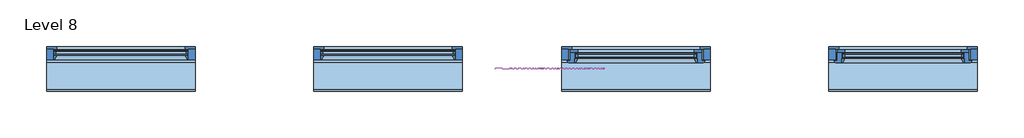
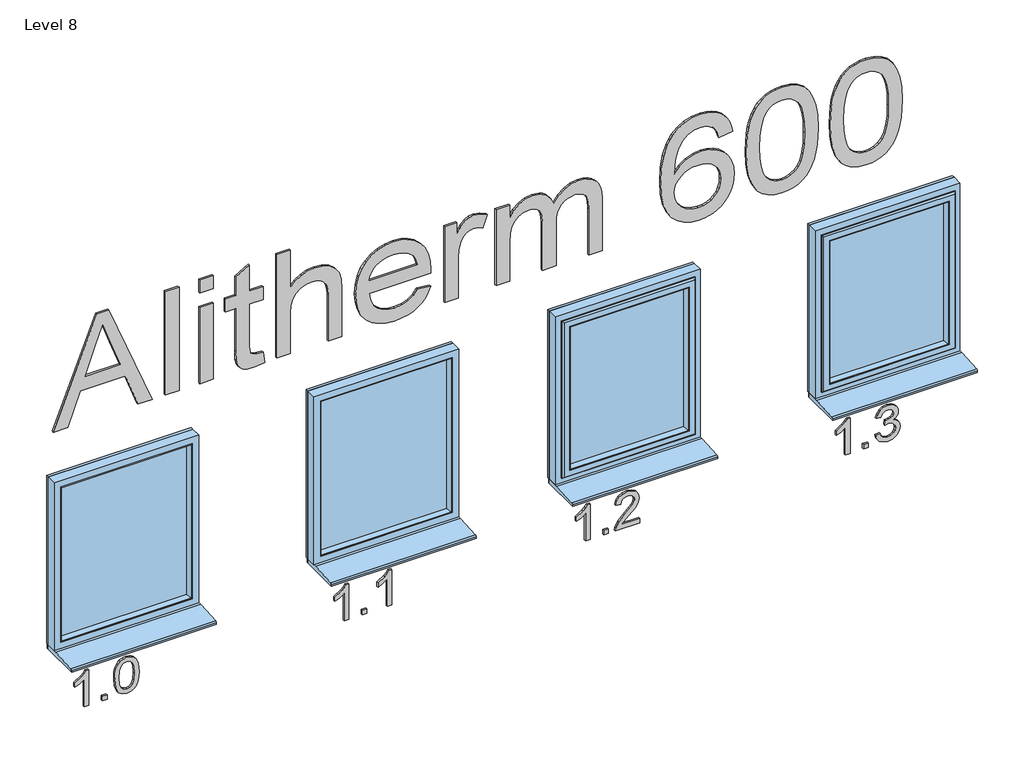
# One storey: 5 proxies, 4 windows.
"""IFC4 building model written with IfcOpenShell, lengths in millimetres."""

from ifc_helpers import new_model, si_unit, frame, origin, place, context, project, spatial, polyline, outline, extrude, transform, mapped, element, save
from components import standard_c212a0ed, standard_17f7015e

model = new_model("IFC4")

# Units and contexts
model_context = context("Model", 3, world=origin())
ifc_project = project(units=[si_unit("LENGTHUNIT", "METRE", prefix="MILLI")], contexts=[model_context])

# Site, building, storey
site = spatial("IfcSite", under=ifc_project)
building = spatial("IfcBuilding", under=site)
storey = spatial("IfcBuildingStorey", under=building, Name="Level 8", Elevation=21000.0)

# Proxies
placement = place(None, origin())
element("IfcBuildingElementProxy", 1, Name="200mm Arial", ObjectType="200mm Arial", at=placement, inside=storey, context=model_context, shape_type="SweptSolid", body=[
    extrude(outline(polyline([(21299.3207785, -163107.777074), (21500.2333988, -163107.777074), (21500.2333988, -163123.9638818), (21487.0754861, -163132.8359693), (21473.5006405, -163146.3065817), (21450.0052437, -163183.1193066), (21426.2645923, -163183.1193066), (21438.9442584, -163156.6808539), (21455.8913556, -163132.8911516), (21299.3207785, -163132.8911516), (21299.3207785, -163107.777074)])), frame((0.0, 24202.6264647, 0.0), z_axis=(0.0, 1.0, 0.0), x_axis=(0.0, 0.0, 1.0)), (0.0, 0.0, 1.0), 10.0),
    extrude(outline(polyline([(-163010.4600236, 24202.6264647), (-163035.5741011, 24202.6264647), (-163035.5741011, 24212.6264647), (-163010.4600236, 24212.6264647), (-163010.4600236, 24202.6264647)])), frame((0.0, 0.0, 21299.3207785), z_axis=(0.0, 0.0, 1.0), x_axis=(1.0, 0.0, 0.0)), (0.0, 0.0, 1.0), 25.1140775),
    extrude(outline(polyline([(21398.1584079, -162969.6496476), (21349.2914162, -162964.6464524), (21330.4405296, -162958.3924585), (21315.3113825, -162949.636867), (21300.9639847, -162929.8202902), (21296.1815188, -162903.725194), (21298.9345024, -162883.4242393), (21307.1934532, -162866.96152), (21321.0503417, -162854.2266716), (21340.5971383, -162845.1093295), (21366.1833311, -162839.6278877), (21398.1584079, -162837.8007405), (21445.3699306, -162842.3624772), (21475.0947958, -162854.1347011), (21485.8553441, -162862.8044534), (21493.7586757, -162874.3927363), (21498.614718, -162888.2496248), (21500.2333988, -162903.725194), (21497.4988093, -162923.9157842), (21489.2950408, -162940.3417153), (21475.4933346, -162953.0949578), (21455.964932, -162962.2674822), (21430.3174256, -162967.8041062), (21398.1584079, -162969.6496476)]), holes=[polyline([(21398.2074588, -162944.53557), (21437.2029503, -162941.4944122), (21461.6793657, -162932.3709387), (21471.7593324, -162919.7403236), (21475.1193212, -162904.0194996), (21471.3056112, -162887.4157589), (21459.8644812, -162874.2946344), (21436.8228055, -162865.7597721), (21398.2074588, -162862.914818), (21358.7643775, -162865.857874), (21335.8882488, -162874.6870419), (21324.9437594, -162887.8326918), (21321.2955963, -162903.725194), (21324.9314967, -162919.6176962), (21335.8391979, -162932.7633462), (21358.7030639, -162941.5925141), (21398.2074588, -162944.53557)])]), frame((0.0, 24202.6264647, 0.0), z_axis=(0.0, 1.0, 0.0), x_axis=(0.0, 0.0, 1.0)), (0.0, 0.0, 1.0), 10.0),
])
element("IfcBuildingElementProxy", 2, Name="200mm Arial", ObjectType="200mm Arial", at=placement, inside=storey, context=model_context, shape_type="SweptSolid", body=[
    extrude(outline(polyline([(21299.3207785, -160407.777074), (21500.2333988, -160407.777074), (21500.2333988, -160423.9638818), (21487.0754861, -160432.8359693), (21473.5006405, -160446.3065817), (21450.0052437, -160483.1193066), (21426.2645923, -160483.1193066), (21438.9442584, -160456.6808539), (21455.8913556, -160432.8911516), (21299.3207785, -160432.8911516), (21299.3207785, -160407.777074)])), frame((0.0, 24202.6264647, 0.0), z_axis=(0.0, 1.0, 0.0), x_axis=(0.0, 0.0, 1.0)), (0.0, 0.0, 1.0), 10.0),
    extrude(outline(polyline([(-160310.4600236, 24202.6264647), (-160335.5741011, 24202.6264647), (-160335.5741011, 24212.6264647), (-160310.4600236, 24212.6264647), (-160310.4600236, 24202.6264647)])), frame((0.0, 0.0, 21299.3207785), z_axis=(0.0, 0.0, 1.0), x_axis=(1.0, 0.0, 0.0)), (0.0, 0.0, 1.0), 25.1140775),
    extrude(outline(polyline([(21324.434856, -160140.9400002), (21324.434856, -160239.5814258), (21337.212624, -160228.2506604), (21361.3702083, -160199.359661), (21395.7794376, -160163.3808019), (21420.4030058, -160148.5428948), (21444.2172337, -160144.0792599), (21466.1184751, -160148.2179323), (21484.1446929, -160160.6339497), (21496.2112223, -160180.1500895), (21500.2333988, -160205.5891295), (21496.6158925, -160230.8442285), (21485.7633736, -160250.3971565), (21468.0191987, -160263.5612006), (21443.7267243, -160269.6496476), (21440.5874646, -160244.53557), (21455.0207016, -160241.8193746), (21465.9467968, -160233.965094), (21472.8261901, -160221.7943314), (21475.1193212, -160206.1286897), (21472.7710078, -160191.2110748), (21465.7260676, -160179.4204569), (21455.2720876, -160171.7501173), (21442.6966547, -160169.1933374), (21428.668088, -160171.9034015), (21414.2471138, -160180.0335936), (21372.4066682, -160223.3946181), (21343.2949396, -160254.8362659), (21316.6357577, -160270.091106), (21299.3207785, -160272.7889073), (21299.3207785, -160140.9400002), (21324.434856, -160140.9400002)])), frame((0.0, 24202.6264647, 0.0), z_axis=(0.0, 1.0, 0.0), x_axis=(0.0, 0.0, 1.0)), (0.0, 0.0, 1.0), 10.0),
])
element("IfcBuildingElementProxy", 3, Name="200mm Arial", ObjectType="200mm Arial", at=placement, inside=storey, context=model_context, shape_type="SweptSolid", body=[
    extrude(outline(polyline([(21299.3207785, -159007.777074), (21500.2333988, -159007.777074), (21500.2333988, -159023.9638818), (21487.0754861, -159032.8359693), (21473.5006405, -159046.3065817), (21450.0052437, -159083.1193066), (21426.2645923, -159083.1193066), (21438.9442584, -159056.6808539), (21455.8913556, -159032.8911516), (21299.3207785, -159032.8911516), (21299.3207785, -159007.777074)])), frame((0.0, 24202.6264647, 0.0), z_axis=(0.0, 1.0, 0.0), x_axis=(0.0, 0.0, 1.0)), (0.0, 0.0, 1.0), 10.0),
    extrude(outline(polyline([(-158910.4600236, 24202.6264647), (-158935.5741011, 24202.6264647), (-158935.5741011, 24212.6264647), (-158910.4600236, 24212.6264647), (-158910.4600236, 24202.6264647)])), frame((0.0, 0.0, 21299.3207785), z_axis=(0.0, 0.0, 1.0), x_axis=(1.0, 0.0, 0.0)), (0.0, 0.0, 1.0), 25.1140775),
    extrude(outline(polyline([(21352.6881933, -158869.6496476), (21329.9898741, -158863.4324419), (21311.9268682, -158849.685918), (21300.1178561, -158829.9183921), (21296.1815188, -158805.6381804), (21300.7923065, -158778.7950575), (21314.6246695, -158757.0287061), (21335.0789084, -158742.6077319), (21359.5553238, -158737.8007405), (21377.5324907, -158740.2042362), (21392.223245, -158747.4147233), (21403.0389757, -158759.0643198), (21409.3910714, -158774.7851438), (21416.6383467, -158762.8167162), (21426.0193376, -158754.183752), (21437.031272, -158748.9598277), (21449.1713779, -158747.2185196), (21462.2005318, -158749.0517982), (21474.5061846, -158754.551634), (21485.1870252, -158763.515692), (21493.3417427, -158775.7416369), (21498.5104848, -158790.2423189), (21500.2333988, -158806.0305879), (21496.7385198, -158827.9563548), (21486.253883, -158845.9580471), (21469.4171503, -158859.1159598), (21446.865984, -158866.5103879), (21443.7267243, -158841.3963103), (21457.4609855, -158836.9449382), (21467.271172, -158829.0845262), (21473.1572839, -158818.3178465), (21475.1193212, -158805.1476711), (21473.175678, -158792.0020211), (21467.3447484, -158781.5051215), (21458.5462374, -158774.6257282), (21447.6998499, -158772.3325971), (21434.6768272, -158775.4963823), (21425.5288283, -158784.9877378), (21420.120963, -158798.439956), (21418.3183412, -158813.4863296), (21418.6126468, -158817.5085061), (21393.4985693, -158820.3044093), (21396.2454215, -158802.6951245), (21393.6763789, -158786.9007241), (21385.9692511, -158774.1474816), (21374.3380487, -158765.7229839), (21359.9967822, -158762.914818), (21344.889095, -158765.7475094), (21332.4301581, -158774.2455835), (21324.0792368, -158787.5383863), (21321.2955963, -158804.7552636), (21323.3189473, -158819.4276239), (21329.3890002, -158830.6786816), (21340.0453154, -158838.9131069), (21355.8274529, -158844.53557), (21352.6881933, -158869.6496476)])), frame((0.0, 24202.6264647, 0.0), z_axis=(0.0, 1.0, 0.0), x_axis=(0.0, 0.0, 1.0)), (0.0, 0.0, 1.0), 10.0),
])
element("IfcBuildingElementProxy", 4, Name="200mm Arial", ObjectType="200mm Arial", at=placement, inside=storey, context=model_context, shape_type="SweptSolid", body=[
    extrude(outline(polyline([(21299.3207785, -161707.777074), (21500.2333988, -161707.777074), (21500.2333988, -161723.9638818), (21487.0754861, -161732.8359693), (21473.5006405, -161746.3065817), (21450.0052437, -161783.1193066), (21426.2645923, -161783.1193066), (21438.9442584, -161756.6808539), (21455.8913556, -161732.8911516), (21299.3207785, -161732.8911516), (21299.3207785, -161707.777074)])), frame((0.0, 24202.6264647, 0.0), z_axis=(0.0, 1.0, 0.0), x_axis=(0.0, 0.0, 1.0)), (0.0, 0.0, 1.0), 10.0),
    extrude(outline(polyline([(-161610.4600236, 24202.6264647), (-161635.5741011, 24202.6264647), (-161635.5741011, 24212.6264647), (-161610.4600236, 24212.6264647), (-161610.4600236, 24202.6264647)])), frame((0.0, 0.0, 21299.3207785), z_axis=(0.0, 0.0, 1.0), x_axis=(1.0, 0.0, 0.0)), (0.0, 0.0, 1.0), 25.1140775),
    extrude(outline(polyline([(21299.3207785, -161475.4718568), (21500.2333988, -161475.4718568), (21500.2333988, -161491.6586646), (21487.0754861, -161500.530752), (21473.5006405, -161514.0013644), (21450.0052437, -161550.8140894), (21426.2645923, -161550.8140894), (21438.9442584, -161524.3756367), (21455.8913556, -161500.5859343), (21299.3207785, -161500.5859343), (21299.3207785, -161475.4718568)])), frame((0.0, 24202.6264647, 0.0), z_axis=(0.0, 1.0, 0.0), x_axis=(0.0, 0.0, 1.0)), (0.0, 0.0, 1.0), 10.0),
])
element("IfcBuildingElementProxy", 5, Name="600mm Arial", ObjectType="600mm Arial", at=placement, inside=storey, context=model_context, shape_type="SweptSolid", body=[
    extrude(outline(polyline([(22922.2457595, -163300.6248519), (22922.2457595, -163222.5960057), (23106.8611441, -163155.0960057), (23106.8611441, -162911.778698), (22922.2457595, -162844.1344673), (22922.2457595, -162766.1056211), (23513.0149903, -163001.9229288), (23513.0149903, -163064.8075442), (22922.2457595, -163300.6248519)]), holes=[polyline([(23180.707298, -163127.9806211), (23338.6399903, -163070.1440826), (23439.1688364, -163033.3652365), (23325.9476826, -162991.9710057), (23180.707298, -162938.7498519), (23180.707298, -163127.9806211)])]), frame((0.0, 24202.6264647, 0.0), z_axis=(0.0, 1.0, 0.0), x_axis=(0.0, 0.0, 1.0)), (0.0, 0.0, 1.0), 10.0),
    extrude(outline(polyline([(-162622.5960057, 24202.6264647), (-162696.4421596, 24202.6264647), (-162696.4421596, 24212.6264647), (-162622.5960057, 24212.6264647), (-162622.5960057, 24202.6264647)])), frame((0.0, 0.0, 22922.2457595), z_axis=(0.0, 0.0, 1.0), x_axis=(1.0, 0.0, 0.0)), (0.0, 0.0, 1.0), 590.7692308),
    extrude(outline(polyline([(-162437.9806211, 24202.6264647), (-162511.826775, 24202.6264647), (-162511.826775, 24212.6264647), (-162437.9806211, 24212.6264647), (-162437.9806211, 24202.6264647)])), frame((0.0, 0.0, 23439.1688364), z_axis=(0.0, 0.0, 1.0), x_axis=(1.0, 0.0, 0.0)), (0.0, 0.0, 1.0), 73.8461538),
    extrude(outline(polyline([(-162437.9806211, 24202.6264647), (-162511.826775, 24202.6264647), (-162511.826775, 24212.6264647), (-162437.9806211, 24212.6264647), (-162437.9806211, 24202.6264647)])), frame((0.0, 0.0, 22922.2457595), z_axis=(0.0, 0.0, 1.0), x_axis=(1.0, 0.0, 0.0)), (0.0, 0.0, 1.0), 433.8461538),
    extrude(outline(polyline([(22983.832298, -162170.2883134), (22986.8611441, -162202.451775), (22988.1051345, -162216.9649961), (22991.8371057, -162227.6200442), (23005.3226826, -162240.2402365), (23043.3996057, -162244.1344673), (23282.2457595, -162244.1344673), (23282.2457595, -162170.2883134), (23356.0919133, -162170.2883134), (23356.0919133, -162244.1344673), (23504.9380672, -162244.1344673), (23461.5246057, -162317.9806211), (23356.0919133, -162317.9806211), (23356.0919133, -162373.3652365), (23282.2457595, -162373.3652365), (23282.2457595, -162317.9806211), (23041.2361441, -162317.9806211), (22988.3395095, -162315.7450442), (22957.4380672, -162309.0383134), (22939.4452787, -162296.8508134), (22925.2746057, -162278.1729288), (22916.0798941, -162251.7426403), (22913.0149903, -162216.2979288), (22920.082298, -162161.0575442), (22983.832298, -162170.2883134)])), frame((0.0, 24202.6264647, 0.0), z_axis=(0.0, 1.0, 0.0), x_axis=(0.0, 0.0, 1.0)), (0.0, 0.0, 1.0), 10.0),
    extrude(outline(polyline([(22922.2457595, -162096.4421596), (22922.2457595, -162022.5960057), (23152.7265287, -162022.5960057), (23196.9693172, -162019.5851884), (23230.4669133, -162010.5527365), (23255.6712403, -161994.434948), (23275.034221, -161970.1681211), (23287.3659518, -161940.8712461), (23291.4765287, -161909.6633134), (23289.9530912, -161889.326775), (23285.3827787, -161871.4421596), (23277.7655912, -161856.0094673), (23267.1015287, -161843.028698), (23253.0931153, -161832.7432413), (23235.4428749, -161825.3964865), (23214.1508076, -161820.9884336), (23189.2169133, -161819.5190826), (22922.2457595, -161819.5190826), (22922.2457595, -161745.6729288), (23196.8611441, -161745.6729288), (23252.9308557, -161749.4589865), (23293.9284518, -161760.8171596), (23323.7661922, -161780.9734096), (23346.3563364, -161811.153698), (23360.581096, -161849.483025), (23365.3226826, -161894.0863903), (23360.9777307, -161931.216799), (23347.9428749, -161965.0118711), (23326.2181153, -161995.4716067), (23295.8034518, -162022.5960057), (23513.0149903, -162022.5960057), (23513.0149903, -162096.4421596), (22922.2457595, -162096.4421596)])), frame((0.0, 24202.6264647, 0.0), z_axis=(0.0, 1.0, 0.0), x_axis=(0.0, 0.0, 1.0)), (0.0, 0.0, 1.0), 10.0),
    extrude(outline(polyline([(23051.4765287, -161340.3844673), (23022.3058557, -161361.0815826), (23002.2938364, -161387.9806211), (22990.7193172, -161421.0815826), (22986.8611441, -161460.3844673), (22988.9434758, -161487.693662), (22995.190471, -161512.6500923), (23005.6021297, -161535.2537581), (23020.1784518, -161555.5046596), (23038.6670335, -161572.4652966), (23060.815471, -161585.1981692), (23086.6237643, -161593.7032774), (23116.0919133, -161597.9806211), (23116.0919133, -161266.1056211), (23135.9957595, -161265.6729288), (23187.4591008, -161269.1750322), (23232.8106633, -161279.6813423), (23272.050447, -161297.1918591), (23305.1784518, -161321.7065826), (23331.4915528, -161351.7381331), (23350.2866249, -161385.7991307), (23361.5636682, -161423.8895754), (23365.3226826, -161466.0094673), (23361.5546537, -161509.5311019), (23350.2505672, -161548.7979288), (23331.410423, -161583.809948), (23305.034221, -161614.5671596), (23271.8341008, -161639.6182413), (23232.5222018, -161657.5118711), (23187.0985239, -161668.248049), (23135.5630672, -161671.826775), (23085.7178148, -161668.2841067), (23041.7589807, -161657.6561019), (23003.6865648, -161639.9427605), (22971.5005672, -161615.1440826), (22945.9131273, -161584.3057413), (22927.6363845, -161548.4734096), (22916.6703388, -161507.6470875), (22913.0149903, -161461.826775), (22915.1333797, -161425.1696235), (22921.488548, -161391.9289384), (22932.0804951, -161362.1047197), (22946.909221, -161335.6969673), (22965.5780912, -161312.9400562), (22987.690471, -161294.0683615), (23013.2463605, -161279.0818831), (23042.2457595, -161267.9806211), (23051.4765287, -161340.3844673)]), holes=[polyline([(23189.9380672, -161597.9806211), (23211.9197379, -161593.9737101), (23231.566673, -161585.8472076), (23248.8788725, -161573.6011139), (23263.8563364, -161557.2354288), (23275.9401706, -161537.7327245), (23284.5714807, -161516.075573), (23289.7502667, -161492.2639745), (23291.4765287, -161466.2979288), (23289.3130672, -161437.8303807), (23282.8226826, -161412.139275), (23272.0053749, -161389.2246115), (23256.8611441, -161369.0863903), (23244.2950383, -161358.0978086), (23228.9524903, -161349.5070634), (23189.9380672, -161339.5190826), (23189.9380672, -161597.9806211)])]), frame((0.0, 24202.6264647, 0.0), z_axis=(0.0, 1.0, 0.0), x_axis=(0.0, 0.0, 1.0)), (0.0, 0.0, 1.0), 10.0),
    extrude(outline(polyline([(22922.2457595, -161191.826775), (22922.2457595, -161117.9806211), (23150.2746057, -161117.9806211), (23195.2746057, -161114.9878326), (23236.5246057, -161106.0094673), (23259.5294133, -161095.3183615), (23276.909221, -161079.3988903), (23287.8347018, -161059.6933615), (23291.4765287, -161037.6440826), (23287.690471, -161011.6825442), (23276.332298, -160985.7210057), (23342.534221, -160961.0575442), (23359.6255672, -160998.4133134), (23365.3226826, -161035.1921596), (23361.752971, -161059.278698), (23351.0438364, -161081.3460057), (23329.1207595, -161103.341198), (23291.909221, -161127.2113903), (23356.0919133, -161127.2113903), (23356.0919133, -161191.826775), (22922.2457595, -161191.826775)])), frame((0.0, 24202.6264647, 0.0), z_axis=(0.0, 1.0, 0.0), x_axis=(0.0, 0.0, 1.0)), (0.0, 0.0, 1.0), 10.0),
    extrude(outline(polyline([(22922.2457595, -160914.903698), (22922.2457595, -160841.0575442), (23141.0438364, -160841.0575442), (23191.8491249, -160838.2450442), (23229.1688364, -160829.8075442), (23256.0678749, -160815.0960057), (23275.6111441, -160793.4613903), (23287.5101826, -160767.247448), (23291.4765287, -160738.7979288), (23289.9891489, -160720.6924601), (23285.5270095, -160705.3183615), (23278.0901105, -160692.6756331), (23267.6784518, -160682.764275), (23237.894798, -160669.9457653), (23196.1399903, -160665.6729288), (22922.2457595, -160665.6729288), (22922.2457595, -160591.826775), (23167.1496057, -160591.826775), (23197.519197, -160590.0193831), (23223.4356633, -160584.5972076), (23244.8990047, -160575.5602485), (23261.909221, -160562.9085057), (23274.8449182, -160547.5253927), (23284.0847018, -160530.294323), (23289.628572, -160511.2152966), (23291.4765287, -160490.2883134), (23288.5919133, -160467.6260538), (23279.9380672, -160448.1008134), (23266.5786922, -160432.920525), (23249.5774903, -160423.2931211), (23224.7517691, -160418.1549), (23187.9188364, -160416.4421596), (22922.2457595, -160416.4421596), (22922.2457595, -160342.5960057), (23219.6496057, -160342.5960057), (23254.3776706, -160344.7098879), (23284.2830191, -160351.0515346), (23309.3656513, -160361.6209456), (23329.6255672, -160376.4181211), (23345.2430552, -160395.1365706), (23356.3984037, -160417.4698038), (23363.0916129, -160443.4178206), (23365.3226826, -160472.9806211), (23359.9591008, -160511.2558615), (23343.8683557, -160545.7450442), (23317.050447, -160576.4481692), (23279.5053749, -160603.3652365), (23315.6532114, -160619.4469673), (23342.7505672, -160644.0383134), (23352.6258677, -160659.4800201), (23359.6796537, -160676.9589865), (23365.3226826, -160718.028698), (23359.7878268, -160756.358025), (23343.1832595, -160790.2883134), (23317.4921537, -160818.8460057), (23284.6976826, -160841.0575442), (23356.0919133, -160841.0575442), (23356.0919133, -160914.903698), (22922.2457595, -160914.903698)])), frame((0.0, 24202.6264647, 0.0), z_axis=(0.0, 1.0, 0.0), x_axis=(0.0, 0.0, 1.0)), (0.0, 0.0, 1.0), 10.0),
    extrude(outline(polyline([(23356.0919133, -159641.0575442), (23390.878572, -159647.872448), (23421.6808557, -159659.2306211), (23448.4987643, -159675.1320634), (23471.332298, -159695.576775), (23489.5684758, -159719.9067028), (23502.5943172, -159747.4637942), (23510.409822, -159778.248049), (23513.0149903, -159812.2594673), (23508.8052547, -159857.5569432), (23496.176048, -159897.9686019), (23475.1273701, -159933.4944432), (23445.659221, -159964.1344673), (23424.8787222, -159979.278698), (23401.191072, -159992.403698), (23345.0943172, -160012.5960057), (23277.3689566, -160024.7113903), (23198.0149903, -160028.7498519), (23127.2337403, -160025.1125322), (23067.1976826, -160014.200573), (23017.9068172, -159996.0139745), (22979.3611441, -159970.5527365), (22950.3347018, -159939.3222677), (22929.6015287, -159903.8279769), (22917.1616249, -159864.0698639), (22913.0149903, -159820.0479288), (22914.5789927, -159793.716799), (22919.2709999, -159768.809948), (22927.0910119, -159745.3273759), (22938.0390287, -159723.2690826), (22951.9302547, -159703.0677605), (22968.5798941, -159685.1561019), (22987.987947, -159669.5341067), (23010.1544133, -159656.201775), (23034.1823581, -159645.5377125), (23059.174846, -159637.920525), (23112.0534518, -159631.826775), (23151.816072, -159635.0629528), (23187.738548, -159644.7714865), (23219.8208797, -159660.9523759), (23248.0630672, -159683.6056211), (23271.0949182, -159710.8652365), (23287.5462403, -159740.8652365), (23297.4170335, -159773.6056211), (23300.707298, -159809.0863903), (23295.893596, -159850.3904769), (23281.4524903, -159889.7835057), (23257.0955191, -159925.2823038), (23222.534221, -159954.903698), (23299.1387883, -159949.2246115), (23329.3416129, -159942.7747918), (23354.144798, -159933.9181211), (23393.0330191, -159911.2558615), (23421.284221, -159883.5094673), (23434.6976826, -159851.201775), (23439.1688364, -159816.8748519), (23437.2487643, -159795.7540586), (23431.488548, -159776.3820634), (23421.8881874, -159758.7588663), (23408.4476826, -159742.8844673), (23383.4597018, -159726.8027365), (23346.8611441, -159714.903698), (23356.0919133, -159641.0575442)]), holes=[polyline([(23113.207298, -159954.903698), (23137.4425744, -159952.6095274), (23159.2349422, -159945.7270153), (23178.5844013, -159934.256162), (23195.4909518, -159918.1969673), (23209.2154109, -159898.8475081), (23219.018596, -159877.5058615), (23224.9005071, -159854.1720274), (23226.8611441, -159828.8460057), (23224.9005071, -159801.5007533), (23219.018596, -159777.3015346), (23209.2154109, -159756.2483495), (23195.4909518, -159738.341198), (23178.3590407, -159724.0488302), (23158.3334999, -159713.8399961), (23135.4143292, -159707.7146956), (23109.6015287, -159705.6729288), (23082.738548, -159707.7417389), (23058.832298, -159713.9481692), (23037.8827787, -159724.2922197), (23019.8899903, -159738.7738903), (23005.4398701, -159756.6269552), (22995.1183557, -159777.0851884), (22988.925447, -159800.1485899), (22986.8611441, -159825.8171596), (22990.8455191, -159861.5683615), (23002.7986441, -159892.3796596), (23022.377971, -159917.9085057), (23049.2409518, -159937.8123519), (23080.4849422, -159950.6308615), (23113.207298, -159954.903698)])]), frame((0.0, 24202.6264647, 0.0), z_axis=(0.0, 1.0, 0.0), x_axis=(0.0, 0.0, 1.0)), (0.0, 0.0, 1.0), 10.0),
    extrude(outline(polyline([(23212.8707595, -159567.2113903), (23135.5540528, -159563.5335057), (23069.1808557, -159552.4998519), (23013.7511682, -159534.1104288), (22969.2649903, -159508.3652365), (22944.6556153, -159481.5383134), (22927.0774903, -159450.0960057), (22916.5306153, -159414.0383134), (22913.0149903, -159373.3652365), (22915.0387282, -159342.1077245), (22921.1099422, -159313.6717269), (22931.2286321, -159288.0572437), (22945.394798, -159265.264275), (22963.676048, -159245.2116908), (22986.1399903, -159227.8183615), (23012.7866249, -159213.084287), (23043.6159518, -159201.0094673), (23078.8848821, -159191.607424), (23118.8503268, -159184.8916788), (23212.8707595, -159179.5190826), (23291.206096, -159182.872448), (23351.6928749, -159192.9325442), (23399.3250864, -159208.2931211), (23439.096721, -159227.5479288), (23470.737346, -159253.0407173), (23493.9765287, -159287.1152365), (23508.2553749, -159327.8604288), (23513.0149903, -159373.3652365), (23511.0047739, -159404.4334456), (23504.9741249, -159432.7342269), (23494.9230432, -159458.2675802), (23480.8515287, -159481.0335057), (23462.6649302, -159501.0996115), (23440.268596, -159518.5335057), (23413.6625263, -159533.3351884), (23382.846721, -159545.5046596), (23347.5327186, -159555.0013543), (23307.4320576, -159561.7847076), (23212.8707595, -159567.2113903)]), holes=[polyline([(23213.0149903, -159493.3652365), (23275.6832595, -159491.1296596), (23327.6784518, -159484.4229288), (23369.0005672, -159473.2450442), (23399.6496057, -159457.5960057), (23416.9392691, -159440.1621115), (23429.2890287, -159420.4565826), (23436.6988845, -159398.4794192), (23439.1688364, -159374.2306211), (23436.3653508, -159348.5395153), (23427.9548941, -159325.4085057), (23413.9374662, -159304.8375923), (23394.3130672, -159286.826775), (23366.1610239, -159272.1873519), (23326.5606633, -159261.7306211), (23275.5119855, -159255.4565826), (23213.0149903, -159253.3652365), (23148.9359638, -159255.528698), (23097.035423, -159262.0190826), (23057.3133677, -159272.8363903), (23029.769798, -159287.9806211), (23010.9972619, -159306.2979288), (22997.5883076, -159326.6344673), (22989.542935, -159348.9902365), (22986.8611441, -159373.3652365), (22989.5339206, -159397.7402365), (22997.5522499, -159420.0960057), (23010.9161321, -159440.4325442), (23029.6255672, -159458.7498519), (23057.1240648, -159473.8940826), (23096.8551345, -159484.7113903), (23148.8187763, -159491.201775), (23213.0149903, -159493.3652365)])]), frame((0.0, 24202.6264647, 0.0), z_axis=(0.0, 1.0, 0.0), x_axis=(0.0, 0.0, 1.0)), (0.0, 0.0, 1.0), 10.0),
    extrude(outline(polyline([(23212.8707595, -159114.903698), (23135.5540528, -159111.2258134), (23069.1808557, -159100.1921596), (23013.7511682, -159081.8027365), (22969.2649903, -159056.0575442), (22944.6556153, -159029.2306211), (22927.0774903, -158997.7883134), (22916.5306153, -158961.7306211), (22913.0149903, -158921.0575442), (22915.0387282, -158889.8000322), (22921.1099422, -158861.3640346), (22931.2286321, -158835.7495514), (22945.394798, -158812.9565826), (22963.676048, -158792.9039985), (22986.1399903, -158775.5106692), (23012.7866249, -158760.7765947), (23043.6159518, -158748.701775), (23078.8848821, -158739.2997317), (23118.8503268, -158732.5839865), (23212.8707595, -158727.2113903), (23291.206096, -158730.5647557), (23351.6928749, -158740.6248519), (23399.3250864, -158755.9854288), (23439.096721, -158775.2402365), (23470.737346, -158800.733025), (23493.9765287, -158834.8075442), (23508.2553749, -158875.5527365), (23513.0149903, -158921.0575442), (23511.0047739, -158952.1257533), (23504.9741249, -158980.4265346), (23494.9230432, -159005.9598879), (23480.8515287, -159028.7258134), (23462.6649302, -159048.7919192), (23440.268596, -159066.2258134), (23413.6625263, -159081.0274961), (23382.846721, -159093.1969673), (23347.5327186, -159102.693662), (23307.4320576, -159109.4770153), (23212.8707595, -159114.903698)]), holes=[polyline([(23213.0149903, -159041.0575442), (23275.6832595, -159038.8219673), (23327.6784518, -159032.1152365), (23369.0005672, -159020.9373519), (23399.6496057, -159005.2883134), (23416.9392691, -158987.8544192), (23429.2890287, -158968.1488903), (23436.6988845, -158946.1717269), (23439.1688364, -158921.9229288), (23436.3653508, -158896.231823), (23427.9548941, -158873.1008134), (23413.9374662, -158852.5299), (23394.3130672, -158834.5190826), (23366.1610239, -158819.8796596), (23326.5606633, -158809.4229288), (23275.5119855, -158803.1488903), (23213.0149903, -158801.0575442), (23148.9359638, -158803.2210057), (23097.035423, -158809.7113903), (23057.3133677, -158820.528698), (23029.769798, -158835.6729288), (23010.9972619, -158853.9902365), (22997.5883076, -158874.326775), (22989.542935, -158896.6825442), (22986.8611441, -158921.0575442), (22989.5339206, -158945.4325442), (22997.5522499, -158967.7883134), (23010.9161321, -158988.1248519), (23029.6255672, -159006.4421596), (23057.1240648, -159021.5863903), (23096.8551345, -159032.403698), (23148.8187763, -159038.8940826), (23213.0149903, -159041.0575442)])]), frame((0.0, 24202.6264647, 0.0), z_axis=(0.0, 1.0, 0.0), x_axis=(0.0, 0.0, 1.0)), (0.0, 0.0, 1.0), 10.0),
])

# Windows
standard_shape = standard_c212a0ed(model_context)
element("IfcWindow", 6, ObjectType="SMARTS_Alitherm600 : Standard", at=placement, inside=storey, context=model_context, shape_type="MappedRepresentation", body=[
    mapped(standard_shape, transform((-162876.7668676, 24355.9063079, 21000.0), x_axis=(-1.0, 0.0, 0.0), y_axis=(0.0, -1.0, 0.0), z_axis=(0.0, 0.0, 1.0))),
])
element("IfcWindow", 7, ObjectType="SMARTS_Alitherm600 : Standard", at=placement, inside=storey, context=model_context, shape_type="MappedRepresentation", body=[
    mapped(standard_shape, transform((-161476.7668676, 24355.9063079, 21000.0), x_axis=(-1.0, 0.0, 0.0), y_axis=(0.0, -1.0, 0.0), z_axis=(0.0, 0.0, 1.0))),
])
standard_2_shape = standard_17f7015e(model_context)
element("IfcWindow", 8, ObjectType="SMARTS_Alitherm600 : Standard", at=placement, inside=storey, context=model_context, shape_type="MappedRepresentation", body=[
    mapped(standard_2_shape, transform((-158776.7668676, 24355.9063079, 21000.0), x_axis=(-1.0, 0.0, 0.0), y_axis=(0.0, -1.0, 0.0), z_axis=(0.0, 0.0, 1.0))),
])
element("IfcWindow", 9, ObjectType="SMARTS_Alitherm600 : Standard", at=placement, inside=storey, context=model_context, shape_type="MappedRepresentation", body=[
    mapped(standard_2_shape, transform((-160176.7668676, 24355.9063079, 21000.0), x_axis=(-1.0, 0.0, 0.0), y_axis=(0.0, -1.0, 0.0), z_axis=(0.0, 0.0, 1.0))),
])

save(model, "model.ifc")
